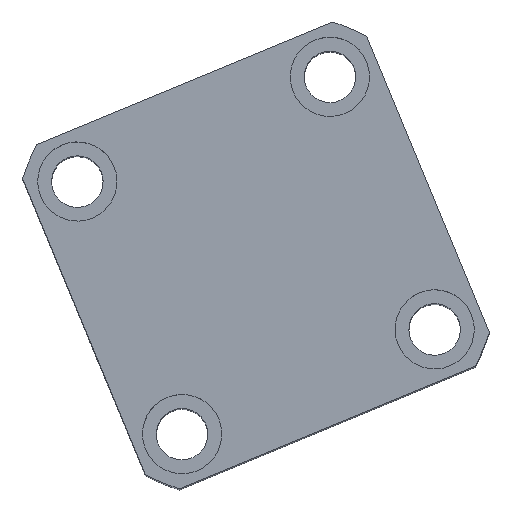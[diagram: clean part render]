
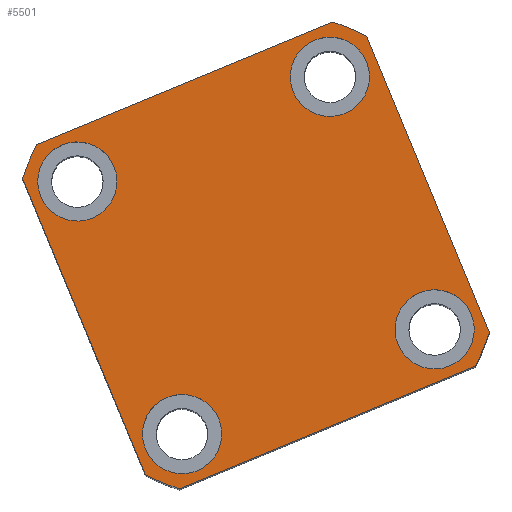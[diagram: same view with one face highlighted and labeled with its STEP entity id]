
A CAD part, top view. The second image highlights one B-rep face of the part: STEP entity #5501.
In plain terms, the highlighted planar face has unit normal (0, 0, 1) as drawn and (0, 0, -1) by its records, which use the part's own axes.
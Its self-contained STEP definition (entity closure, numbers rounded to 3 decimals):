
#271 = CIRCLE ( 'NONE', #8987, 62. ) ;
#373 = CIRCLE ( 'NONE', #10257, 10. ) ;
#483 = DIRECTION ( 'NONE',  ( -1., 0., 0. ) ) ;
#506 = EDGE_CURVE ( 'NONE', #9940, #14073, #373, .T. ) ;
#585 = DIRECTION ( 'NONE',  ( 1., 0., 0. ) ) ;
#639 = DIRECTION ( 'NONE',  ( 1., 0., 0. ) ) ;
#684 = CARTESIAN_POINT ( 'NONE',  ( -24.5, -34.5, 0. ) ) ;
#697 = AXIS2_PLACEMENT_3D ( 'NONE', #14562, #6398, #15939 ) ;
#809 = CARTESIAN_POINT ( 'NONE',  ( -34.5, 34.5, 0. ) ) ;
#1018 = CARTESIAN_POINT ( 'NONE',  ( -44.5, -34.5, 0. ) ) ;
#1019 = DIRECTION ( 'NONE',  ( 0., 0., -1. ) ) ;
#1499 = DIRECTION ( 'NONE',  ( 0., 0., -1. ) ) ;
#1538 = CARTESIAN_POINT ( 'NONE',  ( 47., 47., 0. ) ) ;
#1845 = DIRECTION ( 'NONE',  ( 0., 0., -1. ) ) ;
#1875 = VERTEX_POINT ( 'NONE', #13943 ) ;
#2009 = CIRCLE ( 'NONE', #697, 62. ) ;
#2023 = ORIENTED_EDGE ( 'NONE', *, *, #5993, .F. ) ;
#2185 = DIRECTION ( 'NONE',  ( -1., 0., 0. ) ) ;
#2392 = EDGE_CURVE ( 'NONE', #6525, #11869, #7679, .T. ) ;
#2519 = AXIS2_PLACEMENT_3D ( 'NONE', #15858, #7706, #17240 ) ;
#2547 = VECTOR ( 'NONE', #15120, 1000. ) ;
#2560 = EDGE_CURVE ( 'NONE', #10552, #13529, #3149, .T. ) ;
#2628 = LINE ( 'NONE', #1538, #16747 ) ;
#2651 = EDGE_LOOP ( 'NONE', ( #17408, #9249 ) ) ;
#2713 = ORIENTED_EDGE ( 'NONE', *, *, #15246, .F. ) ;
#2714 = CARTESIAN_POINT ( 'NONE',  ( 47., 40.435, 0. ) ) ;
#2873 = VERTEX_POINT ( 'NONE', #14358 ) ;
#3053 = CARTESIAN_POINT ( 'NONE',  ( -34.5, -34.5, 0. ) ) ;
#3125 = FACE_BOUND ( 'NONE', #7727, .T. ) ;
#3149 = CIRCLE ( 'NONE', #12896, 10. ) ;
#3316 = ORIENTED_EDGE ( 'NONE', *, *, #6374, .F. ) ;
#3447 = AXIS2_PLACEMENT_3D ( 'NONE', #7369, #16899, #8743 ) ;
#3562 = FACE_BOUND ( 'NONE', #7613, .T. ) ;
#3601 = VERTEX_POINT ( 'NONE', #7137 ) ;
#3695 = EDGE_CURVE ( 'NONE', #3601, #6661, #15329, .T. ) ;
#3699 = ORIENTED_EDGE ( 'NONE', *, *, #16076, .F. ) ;
#3750 = ORIENTED_EDGE ( 'NONE', *, *, #5565, .F. ) ;
#3798 = ORIENTED_EDGE ( 'NONE', *, *, #3695, .F. ) ;
#3836 = VECTOR ( 'NONE', #17461, 1000. ) ;
#3889 = DIRECTION ( 'NONE',  ( 0., 0., 1. ) ) ;
#3955 = EDGE_CURVE ( 'NONE', #6321, #2873, #14894, .T. ) ;
#4444 = DIRECTION ( 'NONE',  ( -1., 0., 0. ) ) ;
#4632 = ORIENTED_EDGE ( 'NONE', *, *, #5717, .F. ) ;
#4720 = CARTESIAN_POINT ( 'NONE',  ( 44.5, 34.5, 0. ) ) ;
#5105 = AXIS2_PLACEMENT_3D ( 'NONE', #16867, #8715, #483 ) ;
#5218 = CIRCLE ( 'NONE', #2519, 62. ) ;
#5331 = ORIENTED_EDGE ( 'NONE', *, *, #13842, .F. ) ;
#5501 = ADVANCED_FACE ( 'NONE', ( #3562, #3125, #14017, #6786, #16536 ), #10100, .F. ) ;
#5565 = EDGE_CURVE ( 'NONE', #2873, #11003, #2009, .T. ) ;
#5684 = DIRECTION ( 'NONE',  ( 0., 1., 0. ) ) ;
#5717 = EDGE_CURVE ( 'NONE', #11192, #5960, #5218, .T. ) ;
#5960 = VERTEX_POINT ( 'NONE', #17518 ) ;
#5993 = EDGE_CURVE ( 'NONE', #1875, #6321, #271, .T. ) ;
#6321 = VERTEX_POINT ( 'NONE', #10990 ) ;
#6374 = EDGE_CURVE ( 'NONE', #17125, #11192, #2628, .T. ) ;
#6398 = DIRECTION ( 'NONE',  ( 0., 0., 1. ) ) ;
#6462 = CARTESIAN_POINT ( 'NONE',  ( -40.435, -47., 0. ) ) ;
#6490 = AXIS2_PLACEMENT_3D ( 'NONE', #809, #10381, #2185 ) ;
#6525 = VERTEX_POINT ( 'NONE', #15306 ) ;
#6614 = EDGE_LOOP ( 'NONE', ( #4632, #3316, #3699, #17193, #3750, #15611, #2023, #2713 ) ) ;
#6661 = VERTEX_POINT ( 'NONE', #16556 ) ;
#6786 = FACE_BOUND ( 'NONE', #2651, .T. ) ;
#7137 = CARTESIAN_POINT ( 'NONE',  ( 24.5, -34.5, 0. ) ) ;
#7369 = CARTESIAN_POINT ( 'NONE',  ( -34.5, 34.5, 0. ) ) ;
#7500 = CARTESIAN_POINT ( 'NONE',  ( 0., 0., 0. ) ) ;
#7613 = EDGE_LOOP ( 'NONE', ( #3798, #17290 ) ) ;
#7656 = CARTESIAN_POINT ( 'NONE',  ( -24.5, 34.5, 0. ) ) ;
#7679 = CIRCLE ( 'NONE', #6490, 10. ) ;
#7706 = DIRECTION ( 'NONE',  ( 0., 0., 1. ) ) ;
#7727 = EDGE_LOOP ( 'NONE', ( #11358, #13992 ) ) ;
#7936 = CARTESIAN_POINT ( 'NONE',  ( -47., 47., 0. ) ) ;
#8570 = CIRCLE ( 'NONE', #14659, 62. ) ;
#8715 = DIRECTION ( 'NONE',  ( 0., 0., -1. ) ) ;
#8743 = DIRECTION ( 'NONE',  ( -1., 0., 0. ) ) ;
#8823 = DIRECTION ( 'NONE',  ( 0., 0., 1. ) ) ;
#8873 = DIRECTION ( 'NONE',  ( 0., 0., 1. ) ) ;
#8987 = AXIS2_PLACEMENT_3D ( 'NONE', #12088, #3889, #13441 ) ;
#9242 = CARTESIAN_POINT ( 'NONE',  ( 34.5, -34.5, 0. ) ) ;
#9249 = ORIENTED_EDGE ( 'NONE', *, *, #10666, .F. ) ;
#9514 = DIRECTION ( 'NONE',  ( 0., -1., 0. ) ) ;
#9549 = EDGE_CURVE ( 'NONE', #13529, #10552, #14538, .T. ) ;
#9648 = CARTESIAN_POINT ( 'NONE',  ( 47., -40.435, 0. ) ) ;
#9702 = CARTESIAN_POINT ( 'NONE',  ( 34.5, -34.5, 0. ) ) ;
#9757 = CARTESIAN_POINT ( 'NONE',  ( 40.435, -47., 0. ) ) ;
#9940 = VERTEX_POINT ( 'NONE', #16170 ) ;
#10046 = CARTESIAN_POINT ( 'NONE',  ( 34.5, 34.5, 0. ) ) ;
#10100 = PLANE ( 'NONE',  #17526 ) ;
#10257 = AXIS2_PLACEMENT_3D ( 'NONE', #15998, #15937, #15877 ) ;
#10273 = LINE ( 'NONE', #10993, #2547 ) ;
#10381 = DIRECTION ( 'NONE',  ( 0., 0., -1. ) ) ;
#10552 = VERTEX_POINT ( 'NONE', #684 ) ;
#10592 = DIRECTION ( 'NONE',  ( -1., 0., 0. ) ) ;
#10666 = EDGE_CURVE ( 'NONE', #14073, #9940, #14731, .T. ) ;
#10990 = CARTESIAN_POINT ( 'NONE',  ( -47., 40.435, 0. ) ) ;
#10993 = CARTESIAN_POINT ( 'NONE',  ( -47., -47., 0. ) ) ;
#11003 = VERTEX_POINT ( 'NONE', #6462 ) ;
#11067 = DIRECTION ( 'NONE',  ( -1., 0., 0. ) ) ;
#11192 = VERTEX_POINT ( 'NONE', #2714 ) ;
#11291 = AXIS2_PLACEMENT_3D ( 'NONE', #9242, #1019, #10592 ) ;
#11358 = ORIENTED_EDGE ( 'NONE', *, *, #9549, .F. ) ;
#11423 = DIRECTION ( 'NONE',  ( -1., 0., 0. ) ) ;
#11869 = VERTEX_POINT ( 'NONE', #7656 ) ;
#12088 = CARTESIAN_POINT ( 'NONE',  ( 0., 0., 0. ) ) ;
#12621 = DIRECTION ( 'NONE',  ( 0., 0., -1. ) ) ;
#12896 = AXIS2_PLACEMENT_3D ( 'NONE', #3053, #12621, #4444 ) ;
#13441 = DIRECTION ( 'NONE',  ( 1., 0., 0. ) ) ;
#13529 = VERTEX_POINT ( 'NONE', #1018 ) ;
#13842 = EDGE_CURVE ( 'NONE', #11869, #6525, #15582, .T. ) ;
#13943 = CARTESIAN_POINT ( 'NONE',  ( -40.435, 47., 0. ) ) ;
#13992 = ORIENTED_EDGE ( 'NONE', *, *, #2560, .F. ) ;
#14017 = FACE_BOUND ( 'NONE', #15424, .T. ) ;
#14073 = VERTEX_POINT ( 'NONE', #4720 ) ;
#14358 = CARTESIAN_POINT ( 'NONE',  ( -47., -40.435, 0. ) ) ;
#14430 = EDGE_CURVE ( 'NONE', #6661, #3601, #14699, .T. ) ;
#14477 = VECTOR ( 'NONE', #9514, 1000. ) ;
#14538 = CIRCLE ( 'NONE', #5105, 10. ) ;
#14562 = CARTESIAN_POINT ( 'NONE',  ( 0., 0., 0. ) ) ;
#14659 = AXIS2_PLACEMENT_3D ( 'NONE', #16977, #8823, #585 ) ;
#14699 = CIRCLE ( 'NONE', #15340, 10. ) ;
#14731 = CIRCLE ( 'NONE', #16657, 10. ) ;
#14740 = LINE ( 'NONE', #7936, #3836 ) ;
#14847 = ORIENTED_EDGE ( 'NONE', *, *, #2392, .F. ) ;
#14894 = LINE ( 'NONE', #14997, #14477 ) ;
#14997 = CARTESIAN_POINT ( 'NONE',  ( -47., 47., 0. ) ) ;
#15120 = DIRECTION ( 'NONE',  ( 1., 0., 0. ) ) ;
#15246 = EDGE_CURVE ( 'NONE', #5960, #1875, #14740, .T. ) ;
#15306 = CARTESIAN_POINT ( 'NONE',  ( -44.5, 34.5, 0. ) ) ;
#15329 = CIRCLE ( 'NONE', #11291, 10. ) ;
#15340 = AXIS2_PLACEMENT_3D ( 'NONE', #9702, #1499, #11067 ) ;
#15390 = EDGE_CURVE ( 'NONE', #11003, #17259, #10273, .T. ) ;
#15424 = EDGE_LOOP ( 'NONE', ( #14847, #5331 ) ) ;
#15582 = CIRCLE ( 'NONE', #3447, 10. ) ;
#15611 = ORIENTED_EDGE ( 'NONE', *, *, #3955, .F. ) ;
#15858 = CARTESIAN_POINT ( 'NONE',  ( 0., 0., 0. ) ) ;
#15877 = DIRECTION ( 'NONE',  ( -1., 0., 0. ) ) ;
#15937 = DIRECTION ( 'NONE',  ( 0., 0., -1. ) ) ;
#15939 = DIRECTION ( 'NONE',  ( 1., 0., 0. ) ) ;
#15998 = CARTESIAN_POINT ( 'NONE',  ( 34.5, 34.5, 0. ) ) ;
#16076 = EDGE_CURVE ( 'NONE', #17259, #17125, #8570, .T. ) ;
#16170 = CARTESIAN_POINT ( 'NONE',  ( 24.5, 34.5, 0. ) ) ;
#16536 = FACE_OUTER_BOUND ( 'NONE', #6614, .T. ) ;
#16556 = CARTESIAN_POINT ( 'NONE',  ( 44.5, -34.5, 0. ) ) ;
#16657 = AXIS2_PLACEMENT_3D ( 'NONE', #10046, #1845, #11423 ) ;
#16747 = VECTOR ( 'NONE', #5684, 1000. ) ;
#16867 = CARTESIAN_POINT ( 'NONE',  ( -34.5, -34.5, 0. ) ) ;
#16899 = DIRECTION ( 'NONE',  ( 0., 0., -1. ) ) ;
#16977 = CARTESIAN_POINT ( 'NONE',  ( 0., 0., 0. ) ) ;
#17125 = VERTEX_POINT ( 'NONE', #9648 ) ;
#17193 = ORIENTED_EDGE ( 'NONE', *, *, #15390, .F. ) ;
#17240 = DIRECTION ( 'NONE',  ( 1., 0., 0. ) ) ;
#17259 = VERTEX_POINT ( 'NONE', #9757 ) ;
#17290 = ORIENTED_EDGE ( 'NONE', *, *, #14430, .F. ) ;
#17408 = ORIENTED_EDGE ( 'NONE', *, *, #506, .F. ) ;
#17461 = DIRECTION ( 'NONE',  ( -1., 0., 0. ) ) ;
#17518 = CARTESIAN_POINT ( 'NONE',  ( 40.435, 47., 0. ) ) ;
#17526 = AXIS2_PLACEMENT_3D ( 'NONE', #7500, #8873, #639 ) ;
